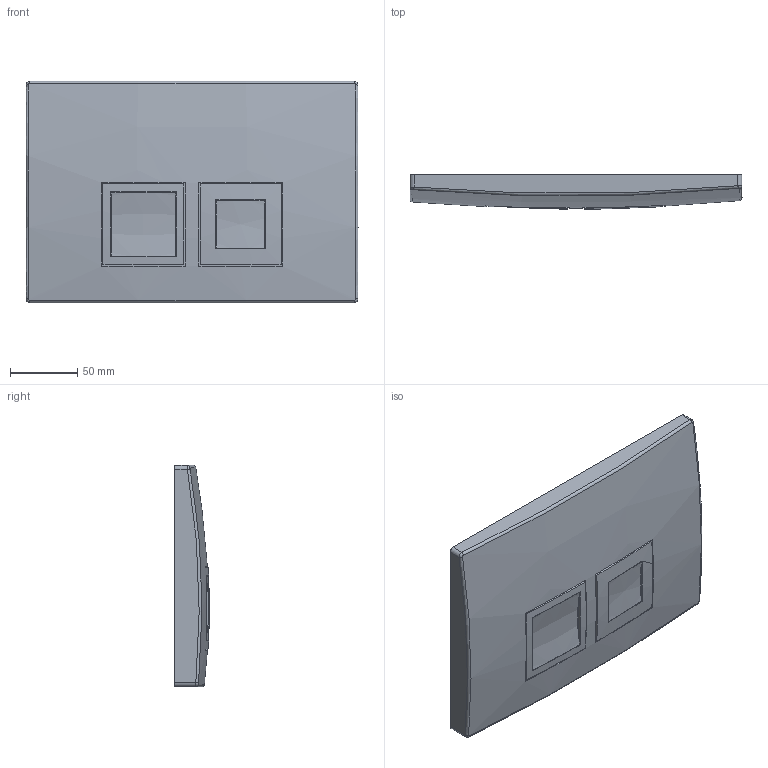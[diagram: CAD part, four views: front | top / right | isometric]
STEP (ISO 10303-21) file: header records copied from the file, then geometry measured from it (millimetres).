
FILE_DESCRIPTION(/* description */ (''),/* implementation_level */ '2;1');
FILE_NAME(/* name */ 'C:\Planerdaten\Export PLA\115.135.11.5\stp\115135.stp',/* time_stamp */ '2021-10-08T09:27:45+02:00',/* author */ ('JANAN'),/* organization */ (''),/* preprocessor_version */ 'ST-DEVELOPER v16.13',/* originating_system */ 'Autodesk Inventor 2018',/* authorisation */ '');
FILE_SCHEMA (('AUTOMOTIVE_DESIGN { 1 0 10303 214 3 1 1 }'));
Length unit declared in the file: millimetre
Products named in the file (1): tmp5D72.tmp
Bounding box: 246 x 25.67 x 164 mm (x, y, z)
Volume: 808669.9 mm3; surface area: 114972.3 mm2
Topology: 3 solids, 3 shells, 75 faces, 172 edges, 101 vertices
Faces by surface type: bspline 33, plane 29, torus 7, cylinder 6
Entity records: 6663 total; most frequent: CARTESIAN_POINT 4972, ORIENTED_EDGE 328, DIRECTION 318, EDGE_CURVE 164, AXIS2_PLACEMENT_3D 127, VERTEX_POINT 100, CIRCLE 80, EDGE_LOOP 78
